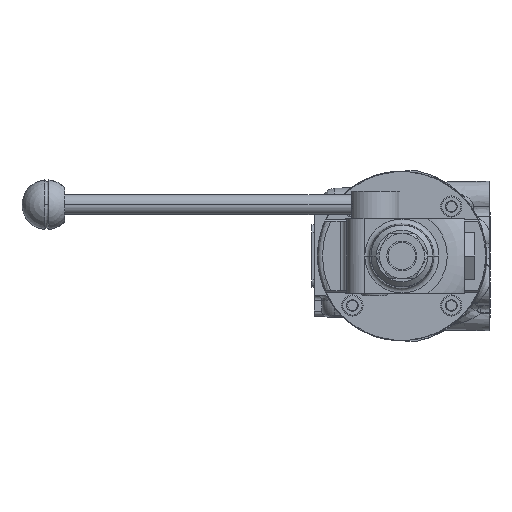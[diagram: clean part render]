
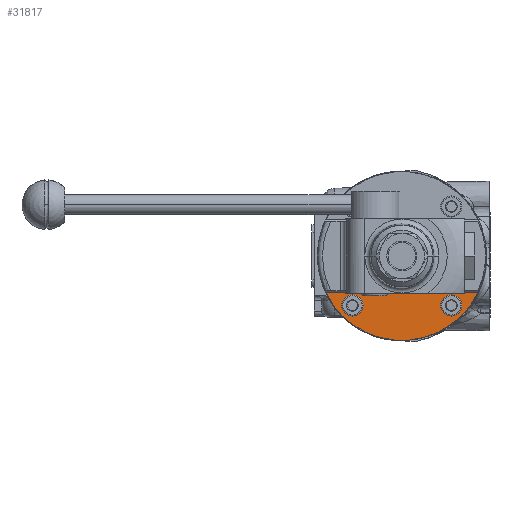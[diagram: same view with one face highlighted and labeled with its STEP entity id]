
A CAD part, left-side view. The second image highlights one B-rep face of the part: STEP entity #31817.
In plain terms, the highlighted planar face has unit normal (-1, 0, 0) as drawn and (1, 0, 0) by its records, which use the part's own axes.
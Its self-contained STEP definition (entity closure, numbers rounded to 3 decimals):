
#30079=CARTESIAN_POINT('',(13.,19.799,19.799));
#30080=DIRECTION('',(-1.,0.,0.));
#30081=DIRECTION('',(0.,-1.,0.));
#30082=AXIS2_PLACEMENT_3D('',#30079,#30080,#30081);
#30084=CARTESIAN_POINT('',(13.,19.799,19.799));
#30085=DIRECTION('',(-1.,0.,0.));
#30086=DIRECTION('',(0.,1.,0.));
#30087=AXIS2_PLACEMENT_3D('',#30084,#30085,#30086);
#30089=CARTESIAN_POINT('',(13.,-19.799,19.799));
#30090=DIRECTION('',(-1.,0.,0.));
#30091=DIRECTION('',(0.,0.,-1.));
#30092=AXIS2_PLACEMENT_3D('',#30089,#30090,#30091);
#30094=CARTESIAN_POINT('',(13.,-19.799,19.799));
#30095=DIRECTION('',(-1.,0.,0.));
#30096=DIRECTION('',(0.,0.,1.));
#30097=AXIS2_PLACEMENT_3D('',#30094,#30095,#30096);
#30119=DIRECTION('',(0.,-1.,0.));
#30120=VECTOR('',#30119,60.908);
#30121=CARTESIAN_POINT('',(13.,30.454,14.6));
#30122=LINE('',#30121,#30120);
#30123=CARTESIAN_POINT('',(13.,0.,0.));
#30124=DIRECTION('',(-1.,0.,0.));
#30125=DIRECTION('',(0.,-0.902,0.432));
#30126=AXIS2_PLACEMENT_3D('',#30123,#30124,#30125);
#30987=CARTESIAN_POINT('',(13.,17.049,19.799));
#30988=CARTESIAN_POINT('',(13.,22.549,19.799));
#30989=VERTEX_POINT('',#30987);
#30990=VERTEX_POINT('',#30988);
#30995=CARTESIAN_POINT('',(13.,-19.799,17.049));
#30996=CARTESIAN_POINT('',(13.,-19.799,22.549));
#30997=VERTEX_POINT('',#30995);
#30998=VERTEX_POINT('',#30996);
#31057=CARTESIAN_POINT('',(13.,30.454,14.6));
#31058=CARTESIAN_POINT('',(13.,-30.454,14.6));
#31059=VERTEX_POINT('',#31057);
#31060=VERTEX_POINT('',#31058);
#31794=CARTESIAN_POINT('',(13.,0.,0.));
#31795=DIRECTION('',(1.,0.,0.));
#31796=DIRECTION('',(0.,0.,-1.));
#31797=AXIS2_PLACEMENT_3D('',#31794,#31795,#31796);
#31798=PLANE('',#31797);
#31800=ORIENTED_EDGE('',*,*,#31799,.T.);
#31802=ORIENTED_EDGE('',*,*,#31801,.T.);
#31803=EDGE_LOOP('',(#31800,#31802));
#31804=FACE_OUTER_BOUND('',#31803,.F.);
#31806=ORIENTED_EDGE('',*,*,#31805,.F.);
#31808=ORIENTED_EDGE('',*,*,#31807,.F.);
#31809=EDGE_LOOP('',(#31806,#31808));
#31810=FACE_BOUND('',#31809,.F.);
#31812=ORIENTED_EDGE('',*,*,#31811,.F.);
#31814=ORIENTED_EDGE('',*,*,#31813,.F.);
#31815=EDGE_LOOP('',(#31812,#31814));
#31816=FACE_BOUND('',#31815,.F.);
#30083=CIRCLE('',#30082,2.75);
#30088=CIRCLE('',#30087,2.75);
#30093=CIRCLE('',#30092,2.75);
#30098=CIRCLE('',#30097,2.75);
#30127=CIRCLE('',#30126,33.773);
#31799=EDGE_CURVE('',#31059,#31060,#30122,.T.);
#31801=EDGE_CURVE('',#31060,#31059,#30127,.T.);
#31805=EDGE_CURVE('',#30989,#30990,#30083,.T.);
#31807=EDGE_CURVE('',#30990,#30989,#30088,.T.);
#31811=EDGE_CURVE('',#30997,#30998,#30093,.T.);
#31813=EDGE_CURVE('',#30998,#30997,#30098,.T.);
#31817=ADVANCED_FACE('',(#31804,#31810,#31816),#31798,.T.);
